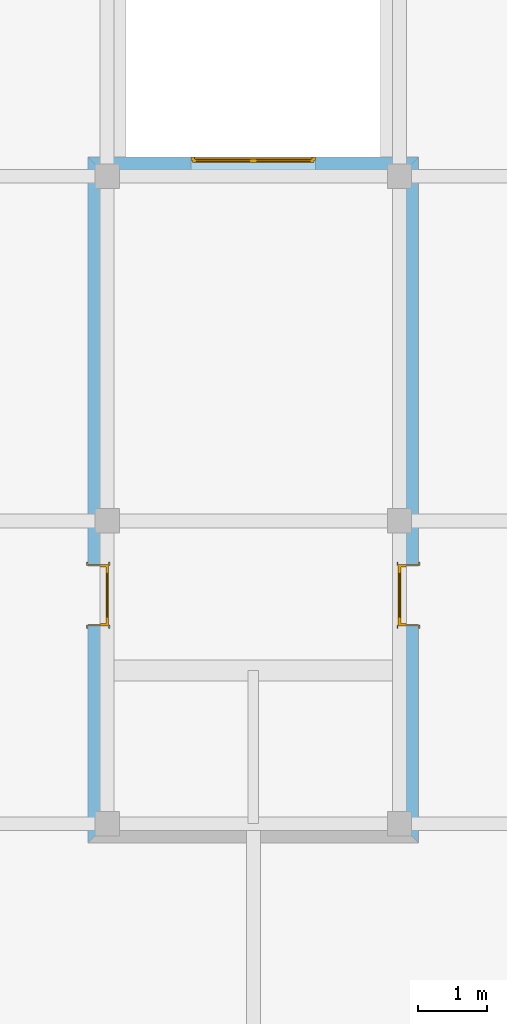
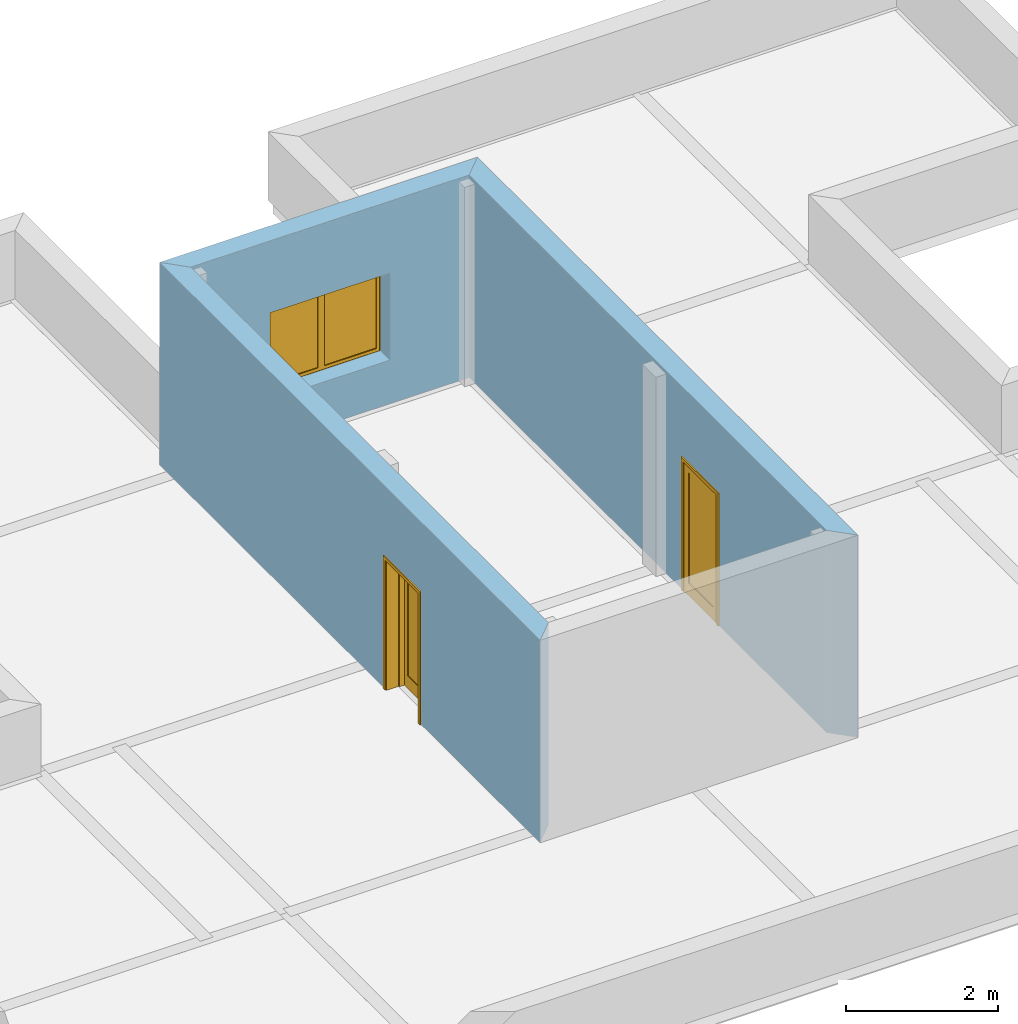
# One storey, part 3 of 3: 2 doors, 1 window, 3 openings, plus 3 elements that do not belong to this part.
"""IFC2X3 building model written with IfcOpenShell, lengths in millimetres."""

from ifc_helpers import new_model, entity, si_unit, converted_unit, direction, frame, origin_with_axes, origin_2d_with_axis, place, context, subcontext, project, spatial, polyline, rectangle, outline, extrude, faceted_brep, source, transform, mapped, material, layer, layer_set, layer_usage, type_object, element, fill, save


model = new_model("IFC2X3")

# Units and contexts
model_context = context("Model", 3, precision=1e-05, world=origin_with_axes(), true_north=direction((0.0, 1.0)))
body_context = subcontext(model_context, "Body", "Model", "MODEL_VIEW")
ifc_project = project(units=[si_unit("LENGTHUNIT", "METRE", prefix="MILLI"), si_unit("AREAUNIT", "SQUARE_METRE"), si_unit("VOLUMEUNIT", "CUBIC_METRE"), converted_unit("PLANEANGLEUNIT", "DEGREE", entity("IfcPlaneAngleMeasure", 0.017453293), si_unit("PLANEANGLEUNIT", "RADIAN"), dimensions=[0, 0, 0, 0, 0, 0, 0]), si_unit("SOLIDANGLEUNIT", "STERADIAN"), si_unit("MASSUNIT", "GRAM"), si_unit("TIMEUNIT", "SECOND"), si_unit("THERMODYNAMICTEMPERATUREUNIT", "DEGREE_CELSIUS"), si_unit("LUMINOUSINTENSITYUNIT", "LUMEN")], contexts=[model_context])

# Site, building, storey
site_placement = place(None, origin_with_axes())
site = spatial("IfcSite", under=ifc_project, at=site_placement, Name="Sitio", CompositionType="ELEMENT")
building_placement = place(site_placement, origin_with_axes())
building = spatial("IfcBuilding", under=site, at=building_placement, Name="Ejemplo_StruBIM", CompositionType="ELEMENT")
storey_placement = place(building_placement, frame((0.0, 0.0, 16002.0), z_axis=(0.0, 0.0, 1.0), x_axis=(1.0, 0.0, 0.0)))
storey = spatial("IfcBuildingStorey", under=building, at=storey_placement, Name="Cover", CompositionType="ELEMENT", Elevation=16002.0)

# Wall, opening, door
ifc_material_1 = material(Name="Bloque mampostería")
ifc_layer = layer(ifc_material_1, 300.0, ventilated="UNKNOWN")
ifc_layer_set = layer_set([ifc_layer], Name="Bloque mampostería 300")
ifc_layer_usage_1 = layer_usage(ifc_layer_set, "AXIS2", "NEGATIVE", 0.0)
wall_type = type_object("IfcWallType", Name="Bloque mampostería 11 3/4\"", PredefinedType="NOTDEFINED")
wall_1_placement = place(storey_placement, frame((13690.6, 14300.2, 0.0), z_axis=(0.0, 0.0, 1.0), x_axis=(0.0, -1.0, 0.0)))
wall_1 = element("IfcWallStandardCase", 1, at=wall_1_placement, inside=storey, type_object=wall_type, material=ifc_layer_usage_1, Name="Muro-018", context=body_context, shape_type="SweptSolid", body=[
    extrude(outline(polyline([(300.0, -300.0), (9707.6, -300.0), (10007.6, 0.0), (0.0, 0.0), (300.0, -300.0)])), origin_with_axes(), (0.0, 0.0, 1.0), 3251.2),
])
opening_1_placement = place(wall_1_placement, frame((6393.4711, 0.0, 0.0), z_axis=(0.0, 0.0, 1.0), x_axis=(1.0, 0.0, 0.0)))
opening_1 = element("IfcOpeningElement", 2, at=opening_1_placement, cuts=wall_1, Name="P02", context=body_context, shape_type="SweptSolid", body=[
    extrude(rectangle(XDim=900.0, YDim=2100.0, at=origin_2d_with_axis()), frame((0.0, 0.0, 1050.0), z_axis=(0.0, -1.0, 0.0), x_axis=(1.0, 0.0, 0.0)), (0.0, 0.0, 1.0), 300.0),
    extrude(rectangle(XDim=974.0, YDim=2137.0, at=origin_2d_with_axis()), frame((0.0, 0.0, 1068.5), z_axis=(0.0, -1.0, 0.0), x_axis=(1.0, 0.0, 0.0)), (0.0, 0.0, -1.0), 300.0),
    extrude(rectangle(XDim=974.0, YDim=2137.0, at=origin_2d_with_axis()), frame((0.0, -300.0, 1068.5), z_axis=(0.0, 1.0, 0.0), x_axis=(1.0, 0.0, 0.0)), (0.0, 0.0, -1.0), 300.0),
])
ifc_material_2 = material(Name="Fondo")
door_style_1 = type_object("IfcDoorStyle", Name="Puerta 16", ConstructionType="NOTDEFINED", OperationType="SINGLE_SWING_RIGHT", ParameterTakesPrecedence=False, Sizeable=False)
shared_shape_1 = source(origin_with_axes(), body_context, "Body", "Brep", [
    faceted_brep([(-450.0, -115.0, 0.0), (-425.0, -115.0, 0.0), (-425.0, -300.0, 0.0), (-450.0, -300.0, 0.0), (-450.0, -115.0, 2100.0), (-425.0, -115.0, 2075.0), (-425.0, -300.0, 2075.0), (-450.0, -300.0, 2100.0)], [[[0, 1, 2, 3]], [[0, 4, 5, 1]], [[1, 5, 6, 2]], [[3, 2, 6, 7]], [[4, 0, 3, 7]], [[5, 4, 7, 6]]]),
    faceted_brep([(450.0, -115.0, 2100.0), (425.0, -115.0, 2075.0), (425.0, -300.0, 2075.0), (450.0, -300.0, 2100.0), (450.0, -115.0, 0.0), (425.0, -115.0, 0.0), (425.0, -300.0, 0.0), (450.0, -300.0, 0.0)], [[[0, 1, 2, 3]], [[0, 4, 5, 1]], [[1, 5, 6, 2]], [[3, 2, 6, 7]], [[4, 0, 3, 7]], [[5, 4, 7, 6]]]),
    faceted_brep([(-425.0, -115.0, 2075.0), (425.0, -115.0, 2075.0), (425.0, -300.0, 2075.0), (-425.0, -300.0, 2075.0), (-450.0, -115.0, 2100.0), (450.0, -115.0, 2100.0), (450.0, -300.0, 2100.0), (-450.0, -300.0, 2100.0)], [[[0, 1, 2, 3]], [[0, 4, 5, 1]], [[1, 5, 6, 2]], [[3, 2, 6, 7]], [[4, 0, 3, 7]], [[5, 4, 7, 6]]]),
    faceted_brep([(-487.0, -319.0, 0.0), (-487.0, -300.0, 0.0), (-437.0, -300.0, 0.0), (-437.0, -319.0, 0.0), (-487.0, -319.0, 2137.0), (-487.0, -300.0, 2137.0), (-437.0, -300.0, 2087.0), (-437.0, -319.0, 2087.0)], [[[0, 1, 2, 3]], [[4, 5, 1, 0]], [[1, 5, 6, 2]], [[3, 2, 6, 7]], [[0, 3, 7, 4]], [[7, 6, 5, 4]]]),
    faceted_brep([(487.0, -319.0, 2137.0), (487.0, -300.0, 2137.0), (437.0, -300.0, 2087.0), (437.0, -319.0, 2087.0), (487.0, -319.0, 0.0), (487.0, -300.0, 0.0), (437.0, -300.0, 0.0), (437.0, -319.0, 0.0)], [[[0, 1, 2, 3]], [[4, 5, 1, 0]], [[1, 5, 6, 2]], [[3, 2, 6, 7]], [[0, 3, 7, 4]], [[7, 6, 5, 4]]]),
    faceted_brep([(-487.0, -319.0, 2137.0), (-487.0, -300.0, 2137.0), (-437.0, -300.0, 2087.0), (-437.0, -319.0, 2087.0), (487.0, -319.0, 2137.0), (487.0, -300.0, 2137.0), (437.0, -300.0, 2087.0), (437.0, -319.0, 2087.0)], [[[0, 1, 2, 3]], [[4, 5, 1, 0]], [[1, 5, 6, 2]], [[3, 2, 6, 7]], [[0, 3, 7, 4]], [[7, 6, 5, 4]]]),
    faceted_brep([(-487.0, 19.0, 0.0), (-437.0, 19.0, 0.0), (-437.0, 0.0, 0.0), (-487.0, 0.0, 0.0), (-487.0, 19.0, 2137.0), (-437.0, 19.0, 2087.0), (-437.0, 0.0, 2087.0), (-487.0, 0.0, 2137.0)], [[[0, 1, 2, 3]], [[0, 4, 5, 1]], [[1, 5, 6, 2]], [[3, 2, 6, 7]], [[4, 0, 3, 7]], [[5, 4, 7, 6]]]),
    faceted_brep([(487.0, 19.0, 2137.0), (437.0, 19.0, 2087.0), (437.0, 0.0, 2087.0), (487.0, 0.0, 2137.0), (487.0, 19.0, 0.0), (437.0, 19.0, 0.0), (437.0, 0.0, 0.0), (487.0, 0.0, 0.0)], [[[0, 1, 2, 3]], [[0, 4, 5, 1]], [[1, 5, 6, 2]], [[3, 2, 6, 7]], [[4, 0, 3, 7]], [[5, 4, 7, 6]]]),
    faceted_brep([(-487.0, 19.0, 2137.0), (-437.0, 19.0, 2087.0), (-437.0, 0.0, 2087.0), (-487.0, 0.0, 2137.0), (487.0, 19.0, 2137.0), (437.0, 19.0, 2087.0), (437.0, 0.0, 2087.0), (487.0, 0.0, 2137.0)], [[[0, 1, 2, 3]], [[0, 4, 5, 1]], [[1, 5, 6, 2]], [[3, 2, 6, 7]], [[4, 0, 3, 7]], [[5, 4, 7, 6]]]),
    faceted_brep([(-410.0, -40.0, 0.0), (-410.0, -40.0, 2060.0), (-410.0, -115.0, 2060.0), (-410.0, -115.0, 0.0), (-422.0, -40.0, 2060.0), (-422.0, -40.0, 0.0), (-422.0, 2.2351741e-07, 2060.0), (-450.0, 2.2351741e-07, 2060.0), (-450.0, -115.0, 2060.0), (-450.0, -115.0, 0.0), (-450.0, 2.2351741e-07, -3.8951635e-07), (-422.0, 2.2351741e-07, 0.0)], [[[0, 1, 2, 3]], [[4, 1, 0, 5]], [[4, 6, 7, 8, 2, 1]], [[8, 9, 3, 2]], [[5, 0, 3, 9, 10, 11]], [[6, 4, 5, 11]], [[6, 11, 10, 7]], [[9, 8, 7, 10]]]),
    faceted_brep([(422.0, -40.0, 2060.0), (410.0, -40.0, 2060.0), (410.0, -115.0, 2060.0), (450.0, -115.0, 2060.0), (450.0, 2.2351741e-07, 2060.0), (422.0, 2.2351741e-07, 2060.0), (422.0, -40.0, 0.0), (410.0, -40.0, 0.0), (410.0, -115.0, 0.0), (450.0, -115.0, 0.0), (450.0, 2.2351741e-07, -3.8951635e-07), (422.0, 2.2351741e-07, 0.0)], [[[0, 1, 2, 3, 4, 5]], [[1, 0, 6, 7]], [[1, 7, 8, 2]], [[8, 9, 3, 2]], [[3, 9, 10, 4]], [[11, 5, 4, 10]], [[0, 5, 11, 6]], [[6, 11, 10, 9, 8, 7]]]),
    faceted_brep([(-422.0, 2.2351741e-07, 2072.0), (-422.0, 2.2351741e-07, 2060.0), (-450.0, 2.2351741e-07, 2060.0), (-450.0, 2.2351741e-07, 2100.0), (450.0, 2.2351741e-07, 2100.0), (450.0, 2.2351741e-07, 2060.0), (422.0, 2.2351741e-07, 2060.0), (422.0, 2.2351741e-07, 2072.0), (-422.0, -40.0, 2072.0), (-422.0, -40.0, 2060.0), (-410.0, -40.0, 2060.0), (-410.0, -115.0, 2060.0), (-450.0, -115.0, 2060.0), (-450.0, -115.0, 2100.0), (450.0, -115.0, 2100.0), (450.0, -115.0, 2060.0), (422.0, -40.0, 2060.0), (410.0, -115.0, 2060.0), (410.0, -40.0, 2060.0), (422.0, -40.0, 2072.0)], [[[0, 1, 2, 3, 4, 5, 6, 7]], [[1, 0, 8, 9]], [[9, 10, 11, 12, 2, 1]], [[12, 13, 3, 2]], [[13, 14, 4, 3]], [[14, 15, 5, 4]], [[16, 6, 5, 15, 17, 18]], [[7, 6, 16, 19]], [[0, 7, 19, 8]], [[16, 18, 10, 9, 8, 19]], [[10, 18, 17, 11]], [[14, 13, 12, 11, 17, 15]]]),
    faceted_brep([(422.0, 0.0, 200.0), (422.0, -40.0, 200.0), (322.0, -40.0, 200.0), (322.0, 0.0, 200.0), (422.0, 0.0, 1972.0), (422.0, -40.0, 1972.0), (322.0, -40.0, 1972.0), (322.0, 0.0, 1972.0)], [[[0, 1, 2, 3]], [[4, 5, 1, 0]], [[1, 5, 6, 2]], [[3, 2, 6, 7]], [[0, 3, 7, 4]], [[7, 6, 5, 4]]]),
    faceted_brep([(-422.0, 0.0, 200.0), (-422.0, -40.0, 200.0), (-422.0, -40.0, 1972.0), (-422.0, 0.0, 1972.0), (-322.0, 0.0, 200.0), (-322.0, -40.0, 200.0), (-322.0, -40.0, 1972.0), (-322.0, 0.0, 1972.0)], [[[0, 1, 2, 3]], [[4, 5, 1, 0]], [[1, 5, 6, 2]], [[3, 2, 6, 7]], [[0, 3, 7, 4]], [[7, 6, 5, 4]]]),
    faceted_brep([(422.0, 0.0, 0.0), (422.0, -40.0, 0.0), (-422.0, -40.0, 0.0), (-422.0, 0.0, 0.0), (422.0, 0.0, 200.0), (422.0, -40.0, 200.0), (322.0, -40.0, 200.0), (-322.0, -40.0, 200.0), (-422.0, -40.0, 200.0), (-422.0, 0.0, 200.0), (-322.0, 0.0, 200.0), (322.0, 0.0, 200.0)], [[[0, 1, 2, 3]], [[4, 5, 1, 0]], [[1, 5, 6, 7, 8, 2]], [[3, 2, 8, 9]], [[0, 3, 9, 10, 11, 4]], [[11, 6, 5, 4]], [[10, 7, 6, 11]], [[9, 8, 7, 10]]]),
    faceted_brep([(422.0, 0.0, 2072.0), (422.0, -40.0, 2072.0), (422.0, -40.0, 1972.0), (422.0, 0.0, 1972.0), (-422.0, 0.0, 2072.0), (-422.0, -40.0, 2072.0), (-422.0, -40.0, 1972.0), (-322.0, -40.0, 1972.0), (322.0, -40.0, 1972.0), (322.0, 0.0, 1972.0), (-322.0, 0.0, 1972.0), (-422.0, 0.0, 1972.0)], [[[0, 1, 2, 3]], [[4, 5, 1, 0]], [[1, 5, 6, 7, 8, 2]], [[3, 2, 8, 9]], [[0, 3, 9, 10, 11, 4]], [[11, 6, 5, 4]], [[10, 7, 6, 11]], [[9, 8, 7, 10]]]),
    faceted_brep([(322.0, -14.0, 200.0), (322.0, -26.0, 200.0), (-322.0, -26.0, 200.0), (-322.0, -14.0, 200.0), (322.0, -14.0, 1972.0), (322.0, -26.0, 1972.0), (-322.0, -26.0, 1972.0), (-322.0, -14.0, 1972.0)], [[[0, 1, 2, 3]], [[4, 5, 1, 0]], [[1, 5, 6, 2]], [[3, 2, 6, 7]], [[0, 3, 7, 4]], [[7, 6, 5, 4]]]),
])
door_1_placement = place(opening_1_placement, frame((450.0, 0.0, 0.0), z_axis=(0.0, 0.0, 1.0), x_axis=(-1.0, 0.0, 0.0)))
door_1 = element("IfcDoor", 3, at=door_1_placement, inside=storey, type_object=door_style_1, material=ifc_material_2, Name="P02", OverallHeight=2100.0, OverallWidth=900.0, context=body_context, shape_type="MappedRepresentation", body=[
    mapped(shared_shape_1, transform((450.0, 300.0, 0.0))),
])
fill(opening_1, door_1)

ifc_layer_usage_2 = layer_usage(ifc_layer_set, "AXIS2", "NEGATIVE", 0.0)
wall_2_placement = place(storey_placement, frame((8864.6, 4292.6, 0.0), z_axis=(0.0, 0.0, 1.0), x_axis=(0.0, 1.0, 0.0)))
wall_2 = element("IfcWallStandardCase", 4, at=wall_2_placement, inside=storey, type_object=wall_type, material=ifc_layer_usage_2, Name="Muro-016", context=body_context, shape_type="SweptSolid", body=[
    extrude(outline(polyline([(300.0, -300.0), (9707.6, -300.0), (10007.6, 0.0), (0.0, 0.0), (300.0, -300.0)])), origin_with_axes(), (0.0, 0.0, 1.0), 3251.2),
])
opening_2_placement = place(wall_2_placement, frame((3613.8704, 0.0, 0.0), z_axis=(0.0, 0.0, 1.0), x_axis=(1.0, 0.0, 0.0)))
opening_2 = element("IfcOpeningElement", 5, at=opening_2_placement, cuts=wall_2, Name="P01", context=body_context, shape_type="SweptSolid", body=[
    extrude(rectangle(XDim=900.0, YDim=2100.0, at=origin_2d_with_axis()), frame((0.0, 0.0, 1050.0), z_axis=(0.0, 1.0, 0.0), x_axis=(1.0, 0.0, 0.0)), (0.0, 0.0, -1.0), 300.0),
    extrude(rectangle(XDim=974.0, YDim=2137.0, at=origin_2d_with_axis()), frame((0.0, 0.0, 1068.5), z_axis=(0.0, 1.0, 0.0), x_axis=(1.0, 0.0, 0.0)), (0.0, 0.0, 1.0), 300.0),
    extrude(rectangle(XDim=974.0, YDim=2137.0, at=origin_2d_with_axis()), frame((0.0, -300.0, 1068.5), z_axis=(0.0, -1.0, 0.0), x_axis=(1.0, 0.0, 0.0)), (0.0, 0.0, 1.0), 300.0),
])
door_style_2 = type_object("IfcDoorStyle", Name="Puerta 16", ConstructionType="NOTDEFINED", OperationType="SINGLE_SWING_LEFT", ParameterTakesPrecedence=False, Sizeable=False)
shared_shape_2 = source(origin_with_axes(), body_context, "Body", "Brep", [
    faceted_brep([(450.0, -115.0, 0.0), (450.0, -300.0, 0.0), (425.0, -300.0, 0.0), (425.0, -115.0, 0.0), (450.0, -115.0, 2100.0), (450.0, -300.0, 2100.0), (425.0, -300.0, 2075.0), (425.0, -115.0, 2075.0)], [[[0, 1, 2, 3]], [[4, 5, 1, 0]], [[1, 5, 6, 2]], [[3, 2, 6, 7]], [[0, 3, 7, 4]], [[7, 6, 5, 4]]]),
    faceted_brep([(-450.0, -115.0, 2100.0), (-450.0, -300.0, 2100.0), (-425.0, -300.0, 2075.0), (-425.0, -115.0, 2075.0), (-450.0, -115.0, 0.0), (-450.0, -300.0, 0.0), (-425.0, -300.0, 0.0), (-425.0, -115.0, 0.0)], [[[0, 1, 2, 3]], [[4, 5, 1, 0]], [[1, 5, 6, 2]], [[3, 2, 6, 7]], [[0, 3, 7, 4]], [[7, 6, 5, 4]]]),
    faceted_brep([(425.0, -115.0, 2075.0), (425.0, -300.0, 2075.0), (-425.0, -300.0, 2075.0), (-425.0, -115.0, 2075.0), (450.0, -115.0, 2100.0), (450.0, -300.0, 2100.0), (-450.0, -300.0, 2100.0), (-450.0, -115.0, 2100.0)], [[[0, 1, 2, 3]], [[4, 5, 1, 0]], [[1, 5, 6, 2]], [[3, 2, 6, 7]], [[0, 3, 7, 4]], [[7, 6, 5, 4]]]),
    faceted_brep([(487.0, -319.0, 0.0), (437.0, -319.0, 0.0), (437.0, -300.0, 0.0), (487.0, -300.0, 0.0), (487.0, -319.0, 2137.0), (437.0, -319.0, 2087.0), (437.0, -300.0, 2087.0), (487.0, -300.0, 2137.0)], [[[0, 1, 2, 3]], [[0, 4, 5, 1]], [[1, 5, 6, 2]], [[3, 2, 6, 7]], [[4, 0, 3, 7]], [[5, 4, 7, 6]]]),
    faceted_brep([(-487.0, -319.0, 2137.0), (-437.0, -319.0, 2087.0), (-437.0, -300.0, 2087.0), (-487.0, -300.0, 2137.0), (-487.0, -319.0, 0.0), (-437.0, -319.0, 0.0), (-437.0, -300.0, 0.0), (-487.0, -300.0, 0.0)], [[[0, 1, 2, 3]], [[0, 4, 5, 1]], [[1, 5, 6, 2]], [[3, 2, 6, 7]], [[4, 0, 3, 7]], [[5, 4, 7, 6]]]),
    faceted_brep([(487.0, -319.0, 2137.0), (437.0, -319.0, 2087.0), (437.0, -300.0, 2087.0), (487.0, -300.0, 2137.0), (-487.0, -319.0, 2137.0), (-437.0, -319.0, 2087.0), (-437.0, -300.0, 2087.0), (-487.0, -300.0, 2137.0)], [[[0, 1, 2, 3]], [[0, 4, 5, 1]], [[1, 5, 6, 2]], [[3, 2, 6, 7]], [[4, 0, 3, 7]], [[5, 4, 7, 6]]]),
    faceted_brep([(487.0, 19.0, 0.0), (487.0, 0.0, 0.0), (437.0, 0.0, 0.0), (437.0, 19.0, 0.0), (487.0, 19.0, 2137.0), (487.0, 0.0, 2137.0), (437.0, 0.0, 2087.0), (437.0, 19.0, 2087.0)], [[[0, 1, 2, 3]], [[4, 5, 1, 0]], [[1, 5, 6, 2]], [[3, 2, 6, 7]], [[0, 3, 7, 4]], [[7, 6, 5, 4]]]),
    faceted_brep([(-487.0, 19.0, 2137.0), (-487.0, 0.0, 2137.0), (-437.0, 0.0, 2087.0), (-437.0, 19.0, 2087.0), (-487.0, 19.0, 0.0), (-487.0, 0.0, 0.0), (-437.0, 0.0, 0.0), (-437.0, 19.0, 0.0)], [[[0, 1, 2, 3]], [[4, 5, 1, 0]], [[1, 5, 6, 2]], [[3, 2, 6, 7]], [[0, 3, 7, 4]], [[7, 6, 5, 4]]]),
    faceted_brep([(487.0, 19.0, 2137.0), (487.0, 0.0, 2137.0), (437.0, 0.0, 2087.0), (437.0, 19.0, 2087.0), (-487.0, 19.0, 2137.0), (-487.0, 0.0, 2137.0), (-437.0, 0.0, 2087.0), (-437.0, 19.0, 2087.0)], [[[0, 1, 2, 3]], [[4, 5, 1, 0]], [[1, 5, 6, 2]], [[3, 2, 6, 7]], [[0, 3, 7, 4]], [[7, 6, 5, 4]]]),
    faceted_brep([(410.0, -40.0, 0.0), (410.0, -115.0, 0.0), (410.0, -115.0, 2060.0), (410.0, -40.0, 2060.0), (422.0, -40.0, 0.0), (422.0, 2.2351741e-07, 0.0), (450.0, 2.2351741e-07, -3.8951635e-07), (450.0, -115.0, 0.0), (450.0, -115.0, 2060.0), (422.0, -40.0, 2060.0), (450.0, 2.2351741e-07, 2060.0), (422.0, 2.2351741e-07, 2060.0)], [[[0, 1, 2, 3]], [[4, 5, 6, 7, 1, 0]], [[8, 2, 1, 7]], [[9, 3, 2, 8, 10, 11]], [[9, 4, 0, 3]], [[11, 5, 4, 9]], [[11, 10, 6, 5]], [[7, 6, 10, 8]]]),
    faceted_brep([(-422.0, -40.0, 2060.0), (-422.0, 2.2351741e-07, 2060.0), (-450.0, 2.2351741e-07, 2060.0), (-450.0, -115.0, 2060.0), (-410.0, -115.0, 2060.0), (-410.0, -40.0, 2060.0), (-422.0, -40.0, 0.0), (-422.0, 2.2351741e-07, 0.0), (-450.0, 2.2351741e-07, -3.8951635e-07), (-450.0, -115.0, 0.0), (-410.0, -115.0, 0.0), (-410.0, -40.0, 0.0)], [[[0, 1, 2, 3, 4, 5]], [[0, 6, 7, 1]], [[7, 8, 2, 1]], [[3, 2, 8, 9]], [[10, 4, 3, 9]], [[5, 4, 10, 11]], [[5, 11, 6, 0]], [[6, 11, 10, 9, 8, 7]]]),
    faceted_brep([(422.0, 2.2351741e-07, 2072.0), (-422.0, 2.2351741e-07, 2072.0), (-422.0, 2.2351741e-07, 2060.0), (-450.0, 2.2351741e-07, 2060.0), (-450.0, 2.2351741e-07, 2100.0), (450.0, 2.2351741e-07, 2100.0), (450.0, 2.2351741e-07, 2060.0), (422.0, 2.2351741e-07, 2060.0), (422.0, -40.0, 2072.0), (-422.0, -40.0, 2072.0), (-422.0, -40.0, 2060.0), (-410.0, -40.0, 2060.0), (-410.0, -115.0, 2060.0), (-450.0, -115.0, 2060.0), (-450.0, -115.0, 2100.0), (450.0, -115.0, 2100.0), (450.0, -115.0, 2060.0), (422.0, -40.0, 2060.0), (410.0, -115.0, 2060.0), (410.0, -40.0, 2060.0)], [[[0, 1, 2, 3, 4, 5, 6, 7]], [[0, 8, 9, 1]], [[1, 9, 10, 2]], [[10, 11, 12, 13, 3, 2]], [[14, 4, 3, 13]], [[15, 5, 4, 14]], [[16, 6, 5, 15]], [[17, 7, 6, 16, 18, 19]], [[7, 17, 8, 0]], [[10, 9, 8, 17, 19, 11]], [[19, 18, 12, 11]], [[14, 13, 12, 18, 16, 15]]]),
    faceted_brep([(-422.0, 0.0, 200.0), (-322.0, 0.0, 200.0), (-322.0, -40.0, 200.0), (-422.0, -40.0, 200.0), (-422.0, 0.0, 1972.0), (-322.0, 0.0, 1972.0), (-322.0, -40.0, 1972.0), (-422.0, -40.0, 1972.0)], [[[0, 1, 2, 3]], [[0, 4, 5, 1]], [[1, 5, 6, 2]], [[3, 2, 6, 7]], [[4, 0, 3, 7]], [[5, 4, 7, 6]]]),
    faceted_brep([(422.0, 0.0, 200.0), (422.0, 0.0, 1972.0), (422.0, -40.0, 1972.0), (422.0, -40.0, 200.0), (322.0, 0.0, 200.0), (322.0, 0.0, 1972.0), (322.0, -40.0, 1972.0), (322.0, -40.0, 200.0)], [[[0, 1, 2, 3]], [[0, 4, 5, 1]], [[1, 5, 6, 2]], [[3, 2, 6, 7]], [[4, 0, 3, 7]], [[5, 4, 7, 6]]]),
    faceted_brep([(-422.0, 0.0, 0.0), (422.0, 0.0, 0.0), (422.0, -40.0, 0.0), (-422.0, -40.0, 0.0), (-422.0, 0.0, 200.0), (-322.0, 0.0, 200.0), (322.0, 0.0, 200.0), (422.0, 0.0, 200.0), (422.0, -40.0, 200.0), (322.0, -40.0, 200.0), (-322.0, -40.0, 200.0), (-422.0, -40.0, 200.0)], [[[0, 1, 2, 3]], [[0, 4, 5, 6, 7, 1]], [[1, 7, 8, 2]], [[3, 2, 8, 9, 10, 11]], [[4, 0, 3, 11]], [[5, 4, 11, 10]], [[6, 5, 10, 9]], [[7, 6, 9, 8]]]),
    faceted_brep([(-422.0, 0.0, 2072.0), (-422.0, 0.0, 1972.0), (-422.0, -40.0, 1972.0), (-422.0, -40.0, 2072.0), (422.0, 0.0, 2072.0), (422.0, 0.0, 1972.0), (322.0, 0.0, 1972.0), (-322.0, 0.0, 1972.0), (-322.0, -40.0, 1972.0), (322.0, -40.0, 1972.0), (422.0, -40.0, 1972.0), (422.0, -40.0, 2072.0)], [[[0, 1, 2, 3]], [[0, 4, 5, 6, 7, 1]], [[1, 7, 8, 2]], [[3, 2, 8, 9, 10, 11]], [[4, 0, 3, 11]], [[5, 4, 11, 10]], [[6, 5, 10, 9]], [[7, 6, 9, 8]]]),
    faceted_brep([(-322.0, -14.0, 200.0), (322.0, -14.0, 200.0), (322.0, -26.0, 200.0), (-322.0, -26.0, 200.0), (-322.0, -14.0, 1972.0), (322.0, -14.0, 1972.0), (322.0, -26.0, 1972.0), (-322.0, -26.0, 1972.0)], [[[0, 1, 2, 3]], [[0, 4, 5, 1]], [[1, 5, 6, 2]], [[3, 2, 6, 7]], [[4, 0, 3, 7]], [[5, 4, 7, 6]]]),
])
door_2_placement = place(opening_2_placement, frame((450.0, 0.0, 0.0), z_axis=(0.0, 0.0, 1.0), x_axis=(-1.0, 0.0, 0.0)))
door_2 = element("IfcDoor", 6, at=door_2_placement, inside=storey, type_object=door_style_2, material=ifc_material_2, Name="P01", OverallHeight=2100.0, OverallWidth=900.0, context=body_context, shape_type="MappedRepresentation", body=[
    mapped(shared_shape_2, transform((450.0, 300.0, 0.0))),
])
fill(opening_2, door_2)

# Wall, opening, window
ifc_layer_usage_3 = layer_usage(ifc_layer_set, "AXIS2", "NEGATIVE", 0.0)
wall_3_placement = place(storey_placement, frame((8864.6, 14300.2, 0.0), z_axis=(0.0, 0.0, 1.0), x_axis=(1.0, 0.0, 0.0)))
wall_3 = element("IfcWallStandardCase", 7, at=wall_3_placement, inside=storey, type_object=wall_type, material=ifc_layer_usage_3, Name="Muro-017", context=body_context, shape_type="SweptSolid", body=[
    extrude(outline(polyline([(300.0, -300.0), (4526.0, -300.0), (4826.0, 0.0), (0.0, 0.0), (300.0, -300.0)])), origin_with_axes(), (0.0, 0.0, 1.0), 3251.2),
])
opening_3_placement = place(wall_3_placement, frame((2413.0, 0.0, 700.0), z_axis=(0.0, 0.0, 1.0), x_axis=(1.0, 0.0, 0.0)))
opening_3 = element("IfcOpeningElement", 8, at=opening_3_placement, cuts=wall_3, Name="V22", context=body_context, shape_type="SweptSolid", body=[
    extrude(rectangle(XDim=1820.0, YDim=1400.0, at=origin_2d_with_axis()), frame((0.0, -300.0, 700.0), z_axis=(0.0, 1.0, 0.0), x_axis=(1.0, 0.0, 0.0)), (0.0, 0.0, 1.0), 300.0),
])
window_style = type_object("IfcWindowStyle", Name="Ventana Doble Hoja 16", ConstructionType="NOTDEFINED", OperationType="DOUBLE_PANEL_HORIZONTAL", ParameterTakesPrecedence=False, Sizeable=False)
shared_shape_3 = source(origin_with_axes(), body_context, "Body", "Brep", [
    faceted_brep([(-885.0, -50.0, 1350.0), (-885.0, -25.0, 1350.0), (-860.0, -25.0, 1350.0), (-860.0, 0.0, 1350.0), (-910.0, 0.0, 1350.0), (-910.0, -50.0, 1350.0), (-885.0, -50.0, 50.0), (-885.0, -25.0, 50.0), (-860.0, -25.0, 50.0), (-860.0, 0.0, 50.0), (-910.0, 0.0, 50.0), (-910.0, -50.0, 50.0)], [[[0, 1, 2, 3, 4, 5]], [[1, 0, 6, 7]], [[8, 2, 1, 7]], [[2, 8, 9, 3]], [[4, 3, 9, 10]], [[5, 4, 10, 11]], [[6, 0, 5, 11]], [[7, 6, 11, 10, 9, 8]]]),
    faceted_brep([(860.0, -25.0, 1350.0), (885.0, -25.0, 1350.0), (885.0, -50.0, 1350.0), (910.0, -50.0, 1350.0), (910.0, 0.0, 1350.0), (860.0, 0.0, 1350.0), (860.0, -25.0, 50.0), (885.0, -25.0, 50.0), (885.0, -50.0, 50.0), (910.0, -50.0, 50.0), (910.0, 0.0, 50.0), (860.0, 0.0, 50.0)], [[[0, 1, 2, 3, 4, 5]], [[1, 0, 6, 7]], [[8, 2, 1, 7]], [[2, 8, 9, 3]], [[9, 10, 4, 3]], [[10, 11, 5, 4]], [[6, 0, 5, 11]], [[7, 6, 11, 10, 9, 8]]]),
    faceted_brep([(860.0, -25.0, 50.0), (885.0, -25.0, 50.0), (885.0, -50.0, 50.0), (910.0, -50.0, 50.0), (910.0, 0.0, 50.0), (860.0, 0.0, 50.0), (-860.0, -25.0, 50.0), (-885.0, -25.0, 50.0), (-885.0, -25.0, 25.0), (885.0, -25.0, 25.0), (885.0, -50.0, 25.0), (-885.0, -50.0, 25.0), (-885.0, -50.0, 50.0), (-910.0, -50.0, 50.0), (-910.0, -50.0, 0.0), (910.0, -50.0, 0.0), (910.0, 0.0, 0.0), (-910.0, 0.0, 50.0), (-860.0, 0.0, 50.0), (-910.0, 0.0, 0.0)], [[[0, 1, 2, 3, 4, 5]], [[1, 0, 6, 7, 8, 9]], [[10, 2, 1, 9]], [[11, 12, 13, 14, 15, 3, 2, 10]], [[15, 16, 4, 3]], [[17, 18, 5, 4, 16, 19]], [[6, 0, 5, 18]], [[7, 6, 18, 17, 13, 12]], [[7, 12, 11, 8]], [[11, 10, 9, 8]], [[13, 17, 19, 14]], [[14, 19, 16, 15]]]),
    faceted_brep([(-885.0, -50.0, 1350.0), (-885.0, -50.0, 1375.0), (885.0, -50.0, 1375.0), (885.0, -50.0, 1350.0), (910.0, -50.0, 1350.0), (910.0, -50.0, 1400.0), (-910.0, -50.0, 1400.0), (-910.0, -50.0, 1350.0), (-885.0, -25.0, 1350.0), (-885.0, -25.0, 1375.0), (885.0, -25.0, 1375.0), (885.0, -25.0, 1350.0), (860.0, -25.0, 1350.0), (860.0, 0.0, 1350.0), (910.0, 0.0, 1350.0), (910.0, 0.0, 1400.0), (-910.0, 0.0, 1400.0), (-910.0, 0.0, 1350.0), (-860.0, 0.0, 1350.0), (-860.0, -25.0, 1350.0)], [[[0, 1, 2, 3, 4, 5, 6, 7]], [[1, 0, 8, 9]], [[2, 1, 9, 10]], [[3, 2, 10, 11]], [[11, 12, 13, 14, 4, 3]], [[4, 14, 15, 5]], [[5, 15, 16, 6]], [[6, 16, 17, 7]], [[8, 0, 7, 17, 18, 19]], [[12, 11, 10, 9, 8, 19]], [[12, 19, 18, 13]], [[14, 13, 18, 17, 16, 15]]]),
    faceted_brep([(-835.0, -25.0, 1325.0), (-885.0, -25.0, 1325.0), (-885.0, -75.0, 1325.0), (-835.0, -75.0, 1325.0), (-835.0, -25.0, 75.0), (-885.0, -25.0, 75.0), (-885.0, -75.0, 75.0), (-835.0, -75.0, 75.0)], [[[0, 1, 2, 3]], [[0, 4, 5, 1]], [[1, 5, 6, 2]], [[3, 2, 6, 7]], [[4, 0, 3, 7]], [[5, 4, 7, 6]]]),
    faceted_brep([(-50.0, -25.0, 75.0), (0.0, -25.0, 75.0), (0.0, -75.0, 75.0), (-50.0, -75.0, 75.0), (-50.0, -25.0, 1325.0), (0.0, -25.0, 1325.0), (0.0, -75.0, 1325.0), (-50.0, -75.0, 1325.0)], [[[0, 1, 2, 3]], [[0, 4, 5, 1]], [[1, 5, 6, 2]], [[3, 2, 6, 7]], [[4, 0, 3, 7]], [[5, 4, 7, 6]]]),
    faceted_brep([(0.0, -25.0, 25.0), (0.0, -25.0, 75.0), (0.0, -75.0, 75.0), (0.0, -75.0, 25.0), (-885.0, -25.0, 25.0), (-885.0, -25.0, 75.0), (-835.0, -25.0, 75.0), (-50.0, -25.0, 75.0), (-50.0, -75.0, 75.0), (-835.0, -75.0, 75.0), (-885.0, -75.0, 75.0), (-885.0, -75.0, 25.0)], [[[0, 1, 2, 3]], [[0, 4, 5, 6, 7, 1]], [[1, 7, 8, 2]], [[3, 2, 8, 9, 10, 11]], [[4, 0, 3, 11]], [[5, 4, 11, 10]], [[6, 5, 10, 9]], [[7, 6, 9, 8]]]),
    faceted_brep([(-885.0, -25.0, 1375.0), (-885.0, -25.0, 1325.0), (-885.0, -75.0, 1325.0), (-885.0, -75.0, 1375.0), (0.0, -25.0, 1375.0), (0.0, -25.0, 1325.0), (-50.0, -25.0, 1325.0), (-835.0, -25.0, 1325.0), (-835.0, -75.0, 1325.0), (-50.0, -75.0, 1325.0), (0.0, -75.0, 1325.0), (0.0, -75.0, 1375.0)], [[[0, 1, 2, 3]], [[0, 4, 5, 6, 7, 1]], [[1, 7, 8, 2]], [[3, 2, 8, 9, 10, 11]], [[4, 0, 3, 11]], [[5, 4, 11, 10]], [[6, 5, 10, 9]], [[7, 6, 9, 8]]]),
    faceted_brep([(-835.0, -40.0, 75.0), (-50.0, -40.0, 75.0), (-50.0, -60.0, 75.0), (-835.0, -60.0, 75.0), (-835.0, -40.0, 1325.0), (-50.0, -40.0, 1325.0), (-50.0, -60.0, 1325.0), (-835.0, -60.0, 1325.0)], [[[0, 1, 2, 3]], [[0, 4, 5, 1]], [[1, 5, 6, 2]], [[3, 2, 6, 7]], [[4, 0, 3, 7]], [[5, 4, 7, 6]]]),
    faceted_brep([(50.0, -25.0, 1325.0), (0.0, -25.0, 1325.0), (0.0, -75.0, 1325.0), (50.0, -75.0, 1325.0), (50.0, -25.0, 75.0), (0.0, -25.0, 75.0), (0.0, -75.0, 75.0), (50.0, -75.0, 75.0)], [[[0, 1, 2, 3]], [[0, 4, 5, 1]], [[1, 5, 6, 2]], [[3, 2, 6, 7]], [[4, 0, 3, 7]], [[5, 4, 7, 6]]]),
    faceted_brep([(835.0, -25.0, 75.0), (885.0, -25.0, 75.0), (885.0, -75.0, 75.0), (835.0, -75.0, 75.0), (835.0, -25.0, 1325.0), (885.0, -25.0, 1325.0), (885.0, -75.0, 1325.0), (835.0, -75.0, 1325.0)], [[[0, 1, 2, 3]], [[0, 4, 5, 1]], [[1, 5, 6, 2]], [[3, 2, 6, 7]], [[4, 0, 3, 7]], [[5, 4, 7, 6]]]),
    faceted_brep([(885.0, -25.0, 25.0), (885.0, -25.0, 75.0), (885.0, -75.0, 75.0), (885.0, -75.0, 25.0), (0.0, -25.0, 25.0), (0.0, -25.0, 75.0), (50.0, -25.0, 75.0), (835.0, -25.0, 75.0), (835.0, -75.0, 75.0), (50.0, -75.0, 75.0), (0.0, -75.0, 75.0), (0.0, -75.0, 25.0)], [[[0, 1, 2, 3]], [[0, 4, 5, 6, 7, 1]], [[1, 7, 8, 2]], [[3, 2, 8, 9, 10, 11]], [[4, 0, 3, 11]], [[5, 4, 11, 10]], [[6, 5, 10, 9]], [[7, 6, 9, 8]]]),
    faceted_brep([(0.0, -25.0, 1375.0), (0.0, -25.0, 1325.0), (0.0, -75.0, 1325.0), (0.0, -75.0, 1375.0), (885.0, -25.0, 1375.0), (885.0, -25.0, 1325.0), (835.0, -25.0, 1325.0), (50.0, -25.0, 1325.0), (50.0, -75.0, 1325.0), (835.0, -75.0, 1325.0), (885.0, -75.0, 1325.0), (885.0, -75.0, 1375.0)], [[[0, 1, 2, 3]], [[0, 4, 5, 6, 7, 1]], [[1, 7, 8, 2]], [[3, 2, 8, 9, 10, 11]], [[4, 0, 3, 11]], [[5, 4, 11, 10]], [[6, 5, 10, 9]], [[7, 6, 9, 8]]]),
    faceted_brep([(50.0, -40.0, 75.0), (835.0, -40.0, 75.0), (835.0, -60.0, 75.0), (50.0, -60.0, 75.0), (50.0, -40.0, 1325.0), (835.0, -40.0, 1325.0), (835.0, -60.0, 1325.0), (50.0, -60.0, 1325.0)], [[[0, 1, 2, 3]], [[0, 4, 5, 1]], [[1, 5, 6, 2]], [[3, 2, 6, 7]], [[4, 0, 3, 7]], [[5, 4, 7, 6]]]),
])
window_placement = place(opening_3_placement, frame((-910.0, 0.0, 0.0), z_axis=(0.0, 0.0, 1.0), x_axis=(1.0, 0.0, 0.0)))
window = element("IfcWindow", 9, at=window_placement, inside=storey, type_object=window_style, material=ifc_material_2, Name="V22", OverallHeight=1400.0, OverallWidth=1820.0, context=body_context, shape_type="MappedRepresentation", body=[
    mapped(shared_shape_3, transform((910.0, 0.0, 0.0))),
])
fill(opening_3, window)

save(model, "model.ifc")
